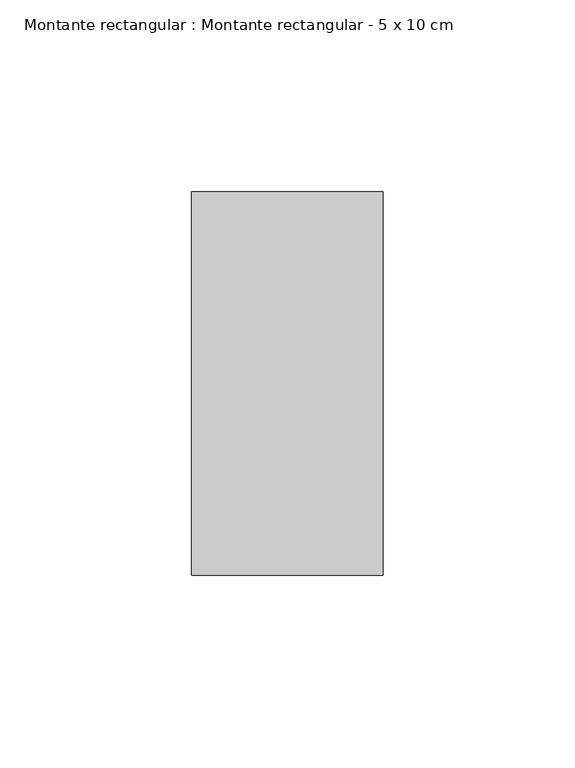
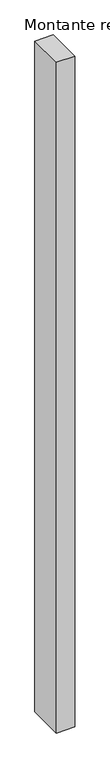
"""IFC4 building model written with IfcOpenShell, lengths in millimetres: member geometry, Montante rectangular : Montante rectangular - 5 x 10 cm."""

import ifcopenshell
import ifcopenshell.guid

model = None  # the IFC model being written
_history = None  # IfcOwnerHistory: only IFC2X3 demands one
_inside = {}  # id of a spatial element -> (the spatial element, [elements in it])
_under = {}  # id of a project, library or spatial element -> (it, [spatial elements below it])
_declared = {}  # id of a project -> (the project, [libraries it declares])
_typed = {}  # id of a type object -> (the type object, [elements of that type])
_made_of = {}  # id of a material, layer set ... -> (it, [elements and type objects made of it])


def new_model(schema):
    """Start an empty IFC model of exactly this schema.

    Asked for "IFC4X3", IfcOpenShell would pick the latest addendum, in which some entities
    have other attributes; the version numbers below select the first issue.
    IFC2X3 requires an IfcOwnerHistory on every rooted entity: one is made here for all.
    """
    global model, _history
    if schema == "IFC4X3":
        model = ifcopenshell.file(schema_version=(4, 3, 0, 0))
    else:
        model = ifcopenshell.file(schema=schema)
    _inside.clear()
    _under.clear()
    _declared.clear()
    _typed.clear()
    _made_of.clear()
    _history = None
    if model.schema == "IFC2X3":
        org = make("IfcOrganization", Name="unknown")
        user = make(
            "IfcPersonAndOrganization",
            ThePerson=make("IfcPerson", FamilyName="unknown"),
            TheOrganization=org,
        )
        app = make(
            "IfcApplication",
            ApplicationDeveloper=org,
            Version="unknown",
            ApplicationFullName="unknown",
            ApplicationIdentifier="unknown",
        )
        _history = make(
            "IfcOwnerHistory",
            OwningUser=user,
            OwningApplication=app,
            ChangeAction="ADDED",
            CreationDate=0,
        )
    return model


def make(cls, **values):
    """One entity of the class cls with the attributes given. An attribute that is None is left unset."""
    return model.create_entity(
        cls, **{name: value for name, value in values.items() if value is not None}
    )


def rooted(cls, **values):
    """An entity with a GlobalId (a new one), such as an element, a storey or a relation."""
    return make(cls, GlobalId=ifcopenshell.guid.new(), OwnerHistory=_history, **values)


def si_unit(unit_type, name, prefix=None):
    """IfcSIUnit, for example si_unit("LENGTHUNIT", "METRE", prefix="MILLI")."""
    return make("IfcSIUnit", UnitType=unit_type, Prefix=prefix, Name=name)


def assignment(units):
    """IfcUnitAssignment: the units of a project."""
    return None if units is None else make("IfcUnitAssignment", Units=units)


def point(xyz):
    """IfcCartesianPoint."""
    return None if xyz is None else make("IfcCartesianPoint", Coordinates=xyz)


def direction(xyz):
    """IfcDirection."""
    return None if xyz is None else make("IfcDirection", DirectionRatios=xyz)


def frame(location, z_axis=None, x_axis=None):
    """IfcAxis2Placement3D, a coordinate frame: its origin and axes. An axis left out is left unset."""
    return make(
        "IfcAxis2Placement3D",
        Location=point(location),
        Axis=direction(z_axis),
        RefDirection=direction(x_axis),
    )


def origin():
    """The frame at (0, 0, 0) with its axes left unset."""
    return frame((0.0, 0.0, 0.0))


def place(relative_to, where):
    """IfcLocalPlacement: puts the frame where relative to a parent placement (None: the world)."""
    return make(
        "IfcLocalPlacement", PlacementRelTo=relative_to, RelativePlacement=where
    )


def context(
    kind, dimensions, precision=None, world=None, true_north=None, identifier=None
):
    """IfcGeometricRepresentationContext, for example the 3D "Model" context."""
    return make(
        "IfcGeometricRepresentationContext",
        ContextIdentifier=identifier,
        ContextType=kind,
        CoordinateSpaceDimension=dimensions,
        Precision=precision,
        WorldCoordinateSystem=world,
        TrueNorth=true_north,
    )


def project(units=None, contexts=None):
    """IfcProject with its units and contexts."""
    return rooted(
        "IfcProject",
        Name="project",
        RepresentationContexts=contexts,
        UnitsInContext=assignment(units),
    )


def spatial(cls, under=None, at=None, **own):
    """A site, building, storey or space (cls), placed at a placement, below another one or the project."""
    s = rooted(cls, ObjectPlacement=at, **own)
    if under is not None:
        _under.setdefault(under.id(), (under, []))[1].append(s)
    return s


def polyline(points):
    """IfcPolyline through the points."""
    return make("IfcPolyline", Points=[point(p) for p in points])


def outline(outer, holes=None, kind="AREA"):
    """IfcArbitraryClosedProfileDef: a profile drawn as a closed curve; with holes, ...WithVoids."""
    if holes is None:
        return make("IfcArbitraryClosedProfileDef", ProfileType=kind, OuterCurve=outer)
    return make(
        "IfcArbitraryProfileDefWithVoids",
        ProfileType=kind,
        OuterCurve=outer,
        InnerCurves=holes,
    )


def extrude(swept, where, along, depth):
    """IfcExtrudedAreaSolid: the profile swept, set in the frame where, extruded along a direction by depth."""
    return make(
        "IfcExtrudedAreaSolid",
        SweptArea=swept,
        Position=where,
        ExtrudedDirection=direction(along),
        Depth=depth,
    )


def shape(context_of_items, identifier, shape_type, items):
    """IfcShapeRepresentation: the items that make up one representation, for example the "Body"."""
    return make(
        "IfcShapeRepresentation",
        ContextOfItems=context_of_items,
        RepresentationIdentifier=identifier,
        RepresentationType=shape_type,
        Items=items,
    )


def source(mapping_origin, context_of_items, identifier, shape_type, items):
    """IfcRepresentationMap: a shape defined once, which mapped items show again and again."""
    return make(
        "IfcRepresentationMap",
        MappingOrigin=mapping_origin,
        MappedRepresentation=shape(context_of_items, identifier, shape_type, items),
    )


def transform(
    local_origin,
    x_axis=None,
    y_axis=None,
    z_axis=None,
    scale=None,
    scale2=None,
    scale3=None,
    uniform=True,
):
    """IfcCartesianTransformationOperator3D, or its non-uniform kind. x_axis, y_axis, z_axis: its Axis1, 2, 3."""
    if uniform:
        return make(
            "IfcCartesianTransformationOperator3D",
            Axis1=direction(x_axis),
            Axis2=direction(y_axis),
            LocalOrigin=point(local_origin),
            Scale=scale,
            Axis3=direction(z_axis),
        )
    return make(
        "IfcCartesianTransformationOperator3DnonUniform",
        Axis1=direction(x_axis),
        Axis2=direction(y_axis),
        LocalOrigin=point(local_origin),
        Scale=scale,
        Axis3=direction(z_axis),
        Scale2=scale2,
        Scale3=scale3,
    )


def mapped(mapping_source, mapping_target):
    """IfcMappedItem: shows the shape of a source again, moved by a transform."""
    return make(
        "IfcMappedItem", MappingSource=mapping_source, MappingTarget=mapping_target
    )


def made_of(thing, what):
    """Note that an element or type object is made of a material, layer set ...; save() writes the relation."""
    if what is not None:
        _made_of.setdefault(what.id(), (what, []))[1].append(thing)
    return thing


def element(
    cls,
    number,
    at=None,
    inside=None,
    cuts=None,
    type_object=None,
    material=None,
    context=None,
    identifier="Body",
    shape_type=None,
    held_by="IfcProductDefinitionShape",
    body=None,
    shapes=None,
    **own,
):
    """One element of the class cls, such as IfcWall. Its Tag is "e" and its number.

    at: its placement. inside: the storey or other place that contains it. cuts: it is an
    opening in that element (IfcRelVoidsElement). A single representation is given by context,
    identifier, shape_type and body (its items); several are given by shapes. held_by: the class
    of the entity that holds the representations. save() writes the other relations.
    """
    e = rooted(cls, Tag="e%d" % number, ObjectPlacement=at, **own)
    if body is not None:
        shapes = [shape(context, identifier, shape_type, body)]
    if shapes is not None:
        e.Representation = make(held_by, Representations=shapes)
    if inside is not None:
        _inside.setdefault(inside.id(), (inside, []))[1].append(e)
    if cuts is not None:
        rooted(
            "IfcRelVoidsElement", RelatingBuildingElement=cuts, RelatedOpeningElement=e
        )
    if type_object is not None:
        _typed.setdefault(type_object.id(), (type_object, []))[1].append(e)
    return made_of(e, material)


def aggregate(whole, parts):
    """IfcRelAggregates: a whole, such as a stair, and the parts it consists of."""
    return rooted("IfcRelAggregates", RelatingObject=whole, RelatedObjects=parts)


def save(model, path):
    """Write the relations noted so far, then the file.

    IfcRelAggregates (storeys below a building ...), IfcRelContainedInSpatialStructure (elements
    in a storey), IfcRelDefinesByType, IfcRelAssociatesMaterial and IfcRelDeclares: one each for
    every whole, place, type object, material and project.
    """
    for whole, parts in _under.values():
        aggregate(whole, parts)
    for where, things in _inside.values():
        rooted(
            "IfcRelContainedInSpatialStructure",
            RelatedElements=things,
            RelatingStructure=where,
        )
    for kind, things in _typed.values():
        rooted("IfcRelDefinesByType", RelatedObjects=things, RelatingType=kind)
    for what, things in _made_of.values():
        rooted("IfcRelAssociatesMaterial", RelatedObjects=things, RelatingMaterial=what)
    for by, libraries in _declared.values():
        rooted("IfcRelDeclares", RelatingContext=by, RelatedDefinitions=libraries)
    model.write(path)


def montante_rectangular_montante_rectangular_5_x_10_cm_bc57bd44(model_context):
    return source(origin(), model_context, "Body", "SweptSolid", [
        extrude(outline(polyline([(0.0, 50.0), (0.0, -50.0), (-50.0, -50.0), (-50.0, 50.0), (0.0, 50.0)])), frame((0.0, 0.0, -1910.4655509), z_axis=(0.0, 0.0, 1.0), x_axis=(1.0, 0.0, 0.0)), (0.0, 0.0, 1.0), 1910.4655509),
    ])


if __name__ == "__main__":
    model = new_model("IFC4")
    model_context = context("Model", 3, world=origin())
    ifc_project = project(units=[si_unit("LENGTHUNIT", "METRE", prefix="MILLI")], contexts=[model_context])
    site = spatial("IfcSite", under=ifc_project)
    building = spatial("IfcBuilding", under=site)
    placement = place(None, origin())
    montante_rectangular_montante_rectangular_5_x_10_cm_shape = montante_rectangular_montante_rectangular_5_x_10_cm_bc57bd44(model_context)
    element("IfcMember", 1, ObjectType="Montante rectangular : Montante rectangular - 5 x 10 cm", at=placement, inside=building, context=model_context, shape_type="MappedRepresentation", body=[
        mapped(montante_rectangular_montante_rectangular_5_x_10_cm_shape, transform((0.0, 0.0, 0.0), x_axis=(1.0, 0.0, 0.0), y_axis=(0.0, 1.0, 0.0), z_axis=(0.0, 0.0, 1.0))),
    ])
    save(model, "model.ifc")
